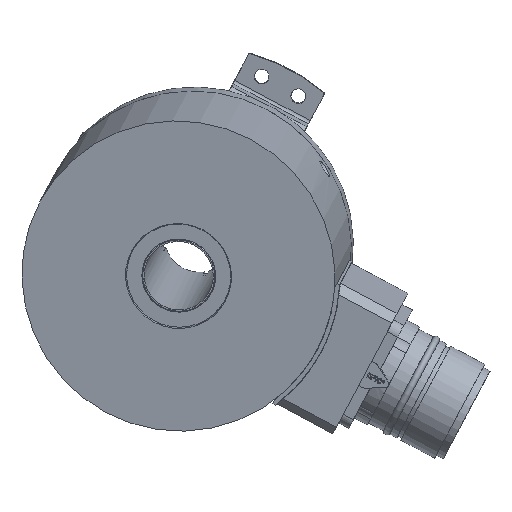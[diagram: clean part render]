
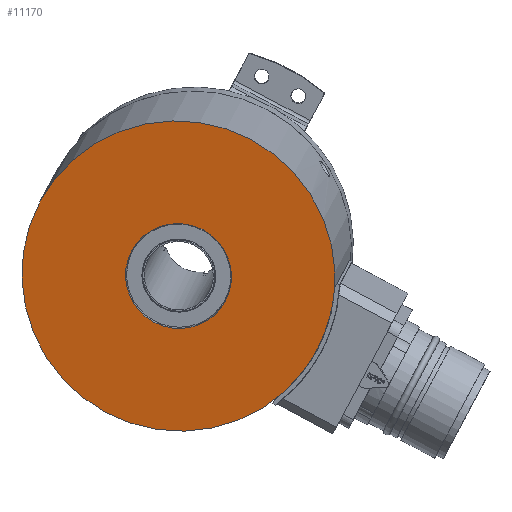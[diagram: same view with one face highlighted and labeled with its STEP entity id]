
A CAD part, top view. The second image highlights one B-rep face of the part: STEP entity #11170.
In plain terms, the highlighted planar face has unit normal (-0.087, -0.163, 0.983) as drawn and (0, 0, 1) by its records, which use the part's own axes.
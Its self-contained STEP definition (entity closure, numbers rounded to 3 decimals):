
#1107=FACE_BOUND('',#2473,.T.);
#1303=PLANE('',#12324);
#1869=FACE_OUTER_BOUND('',#2472,.T.);
#2472=EDGE_LOOP('',(#8378));
#2473=EDGE_LOOP('',(#8379,#8380));
#3216=CIRCLE('',#12296,11.5);
#3217=CIRCLE('',#12297,11.5);
#3231=CIRCLE('',#12322,34.);
#5412=VERTEX_POINT('',#18476);
#5413=VERTEX_POINT('',#18477);
#5442=VERTEX_POINT('',#18768);
#6566=EDGE_CURVE('',#5412,#5413,#3216,.T.);
#6567=EDGE_CURVE('',#5413,#5412,#3217,.T.);
#6609=EDGE_CURVE('',#5442,#5442,#3231,.T.);
#8378=ORIENTED_EDGE('',*,*,#6609,.F.);
#8379=ORIENTED_EDGE('',*,*,#6566,.T.);
#8380=ORIENTED_EDGE('',*,*,#6567,.T.);
#11170=ADVANCED_FACE('',(#1869,#1107),#1303,.T.);
#12296=AXIS2_PLACEMENT_3D('',#18478,#14134,#14135);
#12297=AXIS2_PLACEMENT_3D('',#18479,#14136,#14137);
#12322=AXIS2_PLACEMENT_3D('',#18770,#14198,#14199);
#12324=AXIS2_PLACEMENT_3D('',#18772,#14202,#14203);
#14134=DIRECTION('center_axis',(0.,0.,-1.));
#14135=DIRECTION('ref_axis',(1.,0.,0.));
#14136=DIRECTION('center_axis',(0.,0.,-1.));
#14137=DIRECTION('ref_axis',(1.,0.,0.));
#14198=DIRECTION('center_axis',(0.,0.,-1.));
#14199=DIRECTION('ref_axis',(-1.,0.,0.));
#14202=DIRECTION('center_axis',(0.,0.,1.));
#14203=DIRECTION('ref_axis',(1.,0.,0.));
#18476=CARTESIAN_POINT('',(11.5,0.,0.));
#18477=CARTESIAN_POINT('',(-11.5,0.,0.));
#18478=CARTESIAN_POINT('Origin',(0.,0.,0.));
#18479=CARTESIAN_POINT('Origin',(0.,0.,0.));
#18768=CARTESIAN_POINT('',(34.,0.,0.));
#18770=CARTESIAN_POINT('Origin',(0.,0.,0.));
#18772=CARTESIAN_POINT('Origin',(0.,0.,
0.));
